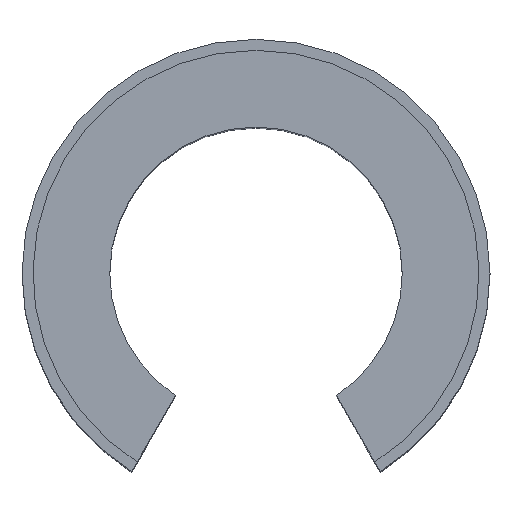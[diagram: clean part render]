
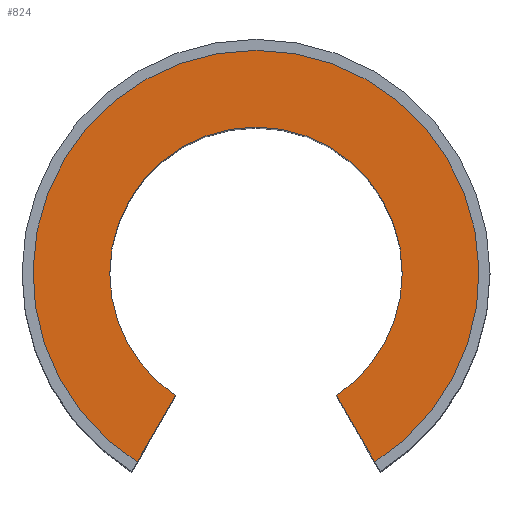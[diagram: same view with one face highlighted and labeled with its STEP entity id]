
A CAD part, top view. The second image highlights one B-rep face of the part: STEP entity #824.
In plain terms, the highlighted planar face has unit normal (0, 0, 1).
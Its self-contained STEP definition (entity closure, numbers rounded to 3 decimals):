
#51=CARTESIAN_POINT('',(10.0,0.,42.0));
#52=VERTEX_POINT('',#51);
#68=CARTESIAN_POINT('',(5.5,-8.352,42.0));
#69=VERTEX_POINT('',#68);
#76=CARTESIAN_POINT('',(0.0,0.0,42.0));
#77=DIRECTION('',(0.0,0.0,-1.0));
#78=DIRECTION('',(-1.0,0.0,0.0));
#79=AXIS2_PLACEMENT_3D('',#76,#77,#78);
#80=CIRCLE('',#79,10.0);
#81=EDGE_CURVE('',#52,#69,#80,.T.);
#91=CARTESIAN_POINT('',(-10.0,0.,42.0));
#92=VERTEX_POINT('',#91);
#101=CARTESIAN_POINT('',(-5.5,-8.352,42.0));
#102=VERTEX_POINT('',#101);
#103=CARTESIAN_POINT('',(0.0,0.0,42.0));
#104=DIRECTION('',(0.0,0.0,-1.0));
#105=DIRECTION('',(-1.0,0.0,0.0));
#106=AXIS2_PLACEMENT_3D('',#103,#104,#105);
#107=CIRCLE('',#106,10.0);
#108=EDGE_CURVE('',#102,#92,#107,.T.);
#469=CARTESIAN_POINT('',(-8.128,-12.903,42.0));
#470=VERTEX_POINT('',#469);
#539=CARTESIAN_POINT('',(-8.128,-12.903,42.0));
#540=DIRECTION('',(0.5,0.866,0.0));
#541=VECTOR('',#540,5.256);
#542=LINE('',#539,#541);
#543=EDGE_CURVE('',#470,#102,#542,.T.);
#553=CARTESIAN_POINT('',(8.128,-12.903,42.0));
#554=VERTEX_POINT('',#553);
#561=CARTESIAN_POINT('',(5.5,-8.352,42.0));
#562=DIRECTION('',(0.5,-0.866,0.0));
#563=VECTOR('',#562,5.256);
#564=LINE('',#561,#563);
#565=EDGE_CURVE('',#69,#554,#564,.T.);
#799=CARTESIAN_POINT('',(0.0,0.0,42.0));
#800=DIRECTION('',(0.0,0.0,-1.0));
#801=DIRECTION('',(-1.0,0.0,0.0));
#802=AXIS2_PLACEMENT_3D('',#799,#800,#801);
#803=PLANE('',#802);
#804=ORIENTED_EDGE('',*,*,#565,.T.);
#805=CARTESIAN_POINT('',(0.0,0.0,42.0));
#806=DIRECTION('',(0.0,0.0,-1.0));
#807=DIRECTION('',(1.0,0.0,0.0));
#808=AXIS2_PLACEMENT_3D('',#805,#806,#807);
#809=CIRCLE('',#808,15.25);
#810=EDGE_CURVE('',#470,#554,#809,.T.);
#811=ORIENTED_EDGE('',*,*,#810,.F.);
#812=ORIENTED_EDGE('',*,*,#543,.T.);
#813=ORIENTED_EDGE('',*,*,#108,.T.);
#814=CARTESIAN_POINT('',(0.0,0.0,42.0));
#815=DIRECTION('',(0.0,0.0,-1.0));
#816=DIRECTION('',(-1.0,0.0,0.0));
#817=AXIS2_PLACEMENT_3D('',#814,#815,#816);
#818=CIRCLE('',#817,10.0);
#819=EDGE_CURVE('',#92,#52,#818,.T.);
#820=ORIENTED_EDGE('',*,*,#819,.T.);
#821=ORIENTED_EDGE('',*,*,#81,.T.);
#822=EDGE_LOOP('',(#804,#811,#812,#813,#820,#821));
#823=FACE_OUTER_BOUND('',#822,.T.);
#824=ADVANCED_FACE('',(#823),#803,.F.);
